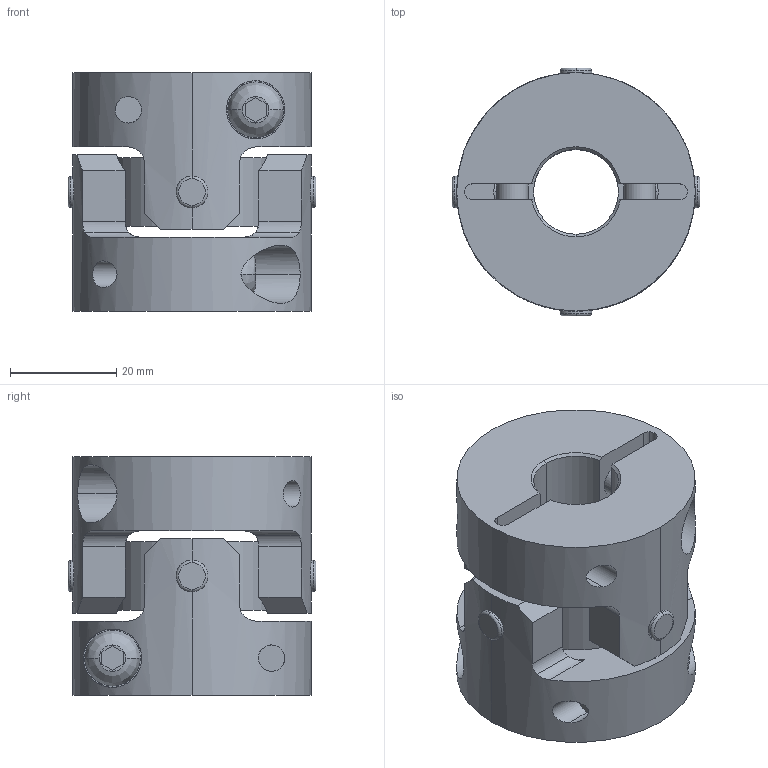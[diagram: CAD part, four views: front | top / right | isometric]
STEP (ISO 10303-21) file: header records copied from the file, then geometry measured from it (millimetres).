
FILE_DESCRIPTION((''),'2;1');
FILE_NAME('UA-45C-16×19.stp','2013-05-22T10:10:37',(''),(''),'AutoCAD STEP 2000i','AutoCAD 2000i',', , ');
FILE_SCHEMA(('CONFIG_CONTROL_DESIGN'));
Length unit declared in the file: millimetre
Products named in the file (7): UA-45C-8×17; 忣兜1; UA-4502-D17; BTN-M6; UA-4502-D08-1; UA-4502-D08; UA45-SEN
Assembly tree (8 placements, depth 3):
  UA-45C-8×17
    忣兜1
    UA-4502-D17
      BTN-M6
    UA-4502-D08-1
      BTN-M6
    UA-4502-D08
      BTN-M6
    UA45-SEN
Bounding box: 46.73 x 46.73 x 45 mm (x, y, z)
Volume: 47660.1 mm3; surface area: 19665.6 mm2
Topology: 1 solids, 1 shells, 206 faces, 554 edges, 364 vertices
Faces by surface type: cylinder 96, plane 78, cone 16, bspline 8, torus 8
Entity records: 8537 total; most frequent: CARTESIAN_POINT 3201, ORIENTED_EDGE 1108, DIRECTION 1068, EDGE_CURVE 554, AXIS2_PLACEMENT_3D 411, VERTEX_POINT 364, VECTOR 246, LINE 246
